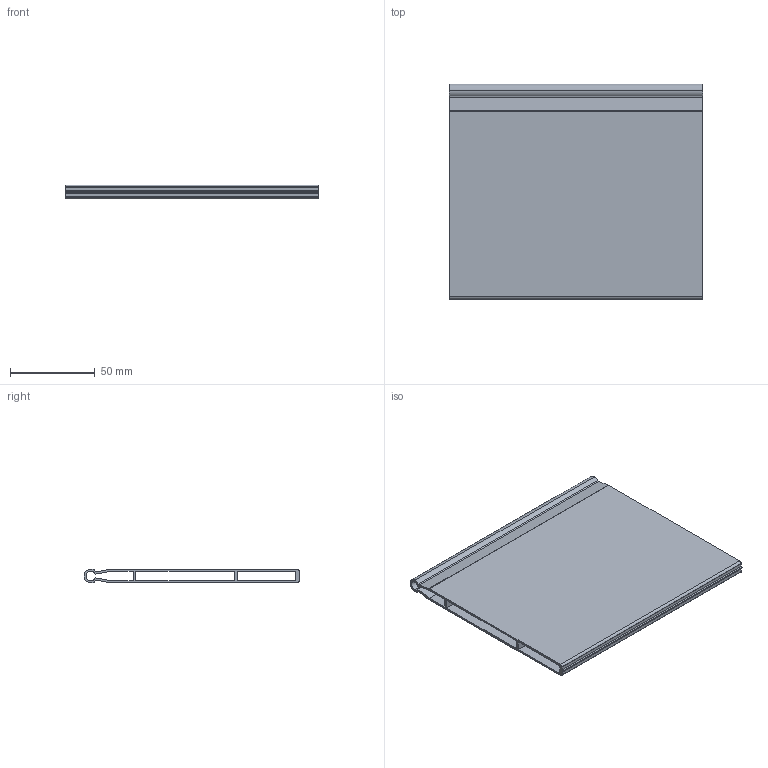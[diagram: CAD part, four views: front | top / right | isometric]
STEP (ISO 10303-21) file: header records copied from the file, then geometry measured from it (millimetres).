
FILE_DESCRIPTION (( 'STEP AP214' ), '1' );
FILE_NAME ('_Magic Optima Unterteilungsprofil DWD XP Agantis_Nova Pro KAB 300.step', '2010-08-17T12:26:42', ( 'grass' ), ( '' ), 'SwSTEP 2.0', 'SolidWorks 2010', '' );
FILE_SCHEMA (( 'AUTOMOTIVE_DESIGN' ));
Length unit declared in the file: millimetre
Products named in the file (1): _Magic Optima Unterteilungsprofil DWD XP Agantis_Nova Pro  KAB 300
Bounding box: 150 x 127.7 x 8.1 mm (x, y, z)
Volume: 52578.5 mm3; surface area: 82030.8 mm2
Topology: 1 solids, 1 shells, 39 faces, 111 edges, 74 vertices
Faces by surface type: plane 22, cylinder 17
Entity records: 1325 total; most frequent: DIRECTION 225, CARTESIAN_POINT 225, ORIENTED_EDGE 222, EDGE_CURVE 111, LINE 77, VECTOR 77, AXIS2_PLACEMENT_3D 74, VERTEX_POINT 74
